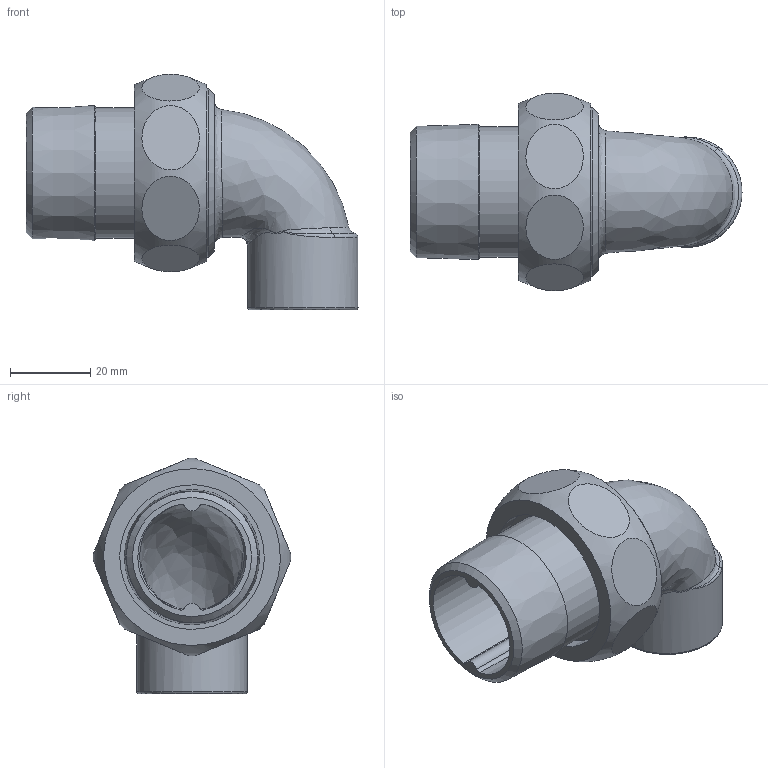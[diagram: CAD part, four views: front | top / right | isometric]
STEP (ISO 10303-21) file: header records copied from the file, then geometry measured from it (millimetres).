
FILE_DESCRIPTION((''),'2;1');
FILE_NAME('\\lg50001\SANHA_Legnica\Engineering\Public\RYSUNKI\SANHA POLSKA\4098g\step\14098g_22-1(1).stp','2012-03-27T12:32:45',('pajchrowski'),(''),'Autodesk Inventor 2009','Autodesk Inventor 2009','');
FILE_SCHEMA(('AUTOMOTIVE_DESIGN { 1 0 10303 214 1 1 1 1 }'));
Length unit declared in the file: millimetre
Products named in the file (4): 14098g_22-1(1); 14382_1-114(4); 1E4098g_22-114(0); 14374_114(1)
Assembly tree (3 placements, depth 2):
  14098g_22-1(1)
    14382_1-114(4)
    1E4098g_22-114(0)
    14374_114(1)
Bounding box: 82.64 x 49.15 x 58.57 mm (x, y, z)
Volume: 39287.9 mm3; surface area: 25415.2 mm2
Topology: 3 solids, 3 shells, 56 faces, 110 edges, 71 vertices
Faces by surface type: plane 20, cylinder 16, bspline 10, cone 7, torus 3
Full cylindrical faces by diameter (mm): 22 x1, 27.5 x1, 32.5 x1, 35.5 x1, 36 x1, 38.5 x1, 38.952 x1, 41.91 x1
Entity records: 8354 total; most frequent: CARTESIAN_POINT 7200, DIRECTION 216, ORIENTED_EDGE 174, AXIS2_PLACEMENT_3D 104, EDGE_LOOP 92, EDGE_CURVE 87, VERTEX_POINT 67, FACE_OUTER_BOUND 56
